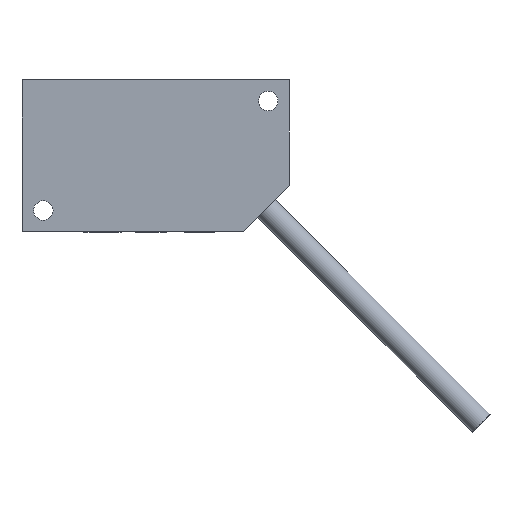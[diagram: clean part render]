
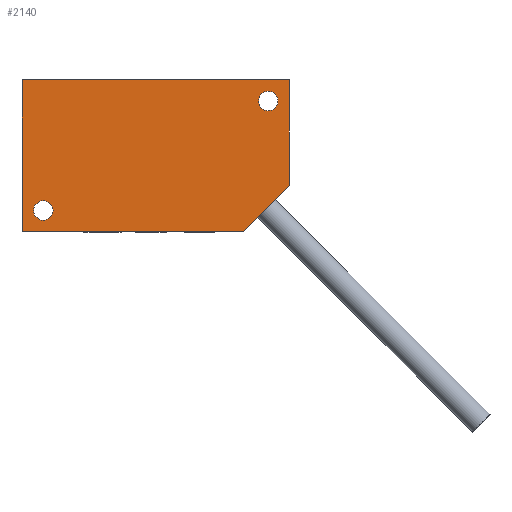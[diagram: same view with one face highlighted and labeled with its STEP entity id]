
A CAD part, left-side view. The second image highlights one B-rep face of the part: STEP entity #2140.
In plain terms, the highlighted planar face has unit normal (-1, 0, 0).
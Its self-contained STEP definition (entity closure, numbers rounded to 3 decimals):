
#591 = LINE ( 'NONE', #1325, #1332 ) ;
#1071 = AXIS2_PLACEMENT_3D ( 'NONE', #1315, #1579, #1572 ) ;
#1088 = CIRCLE ( 'NONE', #1071, 1.6 ) ;
#1138 = CARTESIAN_POINT ( 'NONE',  ( -10., 6.3, -25. ) ) ;
#1163 = CARTESIAN_POINT ( 'NONE',  ( -10., 6.3, 0. ) ) ;
#1165 = CARTESIAN_POINT ( 'NONE',  ( -10., -37.7, -17.354 ) ) ;
#1166 = DIRECTION ( 'NONE',  ( 0., -0.707, 0.707 ) ) ;
#1167 = VECTOR ( 'NONE', #1166, 1000. ) ;
#1184 = CARTESIAN_POINT ( 'NONE',  ( -10., -37.7, -17.354 ) ) ;
#1185 = LINE ( 'NONE', #1184, #1167 ) ;
#1200 = DIRECTION ( 'NONE',  ( 0., -1., 0. ) ) ;
#1201 = VECTOR ( 'NONE', #1200, 1000. ) ;
#1202 = CARTESIAN_POINT ( 'NONE',  ( -10., 6.3, 0. ) ) ;
#1203 = LINE ( 'NONE', #1202, #1201 ) ;
#1286 = CARTESIAN_POINT ( 'NONE',  ( -10., -37.7, 0. ) ) ;
#1315 = CARTESIAN_POINT ( 'NONE',  ( -10., -34.2, -3.5 ) ) ;
#1319 = DIRECTION ( 'NONE',  ( 0., 0., 1. ) ) ;
#1323 = DIRECTION ( 'NONE',  ( 0., 0., -1. ) ) ;
#1324 = VECTOR ( 'NONE', #1323, 1000. ) ;
#1325 = CARTESIAN_POINT ( 'NONE',  ( -10., 6.3, 0. ) ) ;
#1326 = CARTESIAN_POINT ( 'NONE',  ( -10., -37.7, 0. ) ) ;
#1332 = VECTOR ( 'NONE', #1319, 1000. ) ;
#1340 = LINE ( 'NONE', #1326, #1324 ) ;
#1348 = DIRECTION ( 'NONE',  ( 0., 0., -1. ) ) ;
#1349 = DIRECTION ( 'NONE',  ( 1., 0., 0. ) ) ;
#1350 = CARTESIAN_POINT ( 'NONE',  ( -10., 2.8, -21.5 ) ) ;
#1351 = AXIS2_PLACEMENT_3D ( 'NONE', #1350, #1349, #1348 ) ;
#1352 = CIRCLE ( 'NONE', #1351, 1.6 ) ;
#1353 = PLANE ( 'NONE',  #1378 ) ;
#1359 = FACE_OUTER_BOUND ( 'NONE', #2131, .T. ) ;
#1361 = FACE_BOUND ( 'NONE', #2132, .T. ) ;
#1362 = FACE_BOUND ( 'NONE', #2137, .T. ) ;
#1368 = CIRCLE ( 'NONE', #1394, 1.6 ) ;
#1378 = AXIS2_PLACEMENT_3D ( 'NONE', #1406, #1405, #1404 ) ;
#1393 = DIRECTION ( 'NONE',  ( 0., 0., -1. ) ) ;
#1394 = AXIS2_PLACEMENT_3D ( 'NONE', #1398, #1400, #1393 ) ;
#1398 = CARTESIAN_POINT ( 'NONE',  ( -10., -34.2, -3.5 ) ) ;
#1400 = DIRECTION ( 'NONE',  ( 1., 0., 0. ) ) ;
#1404 = DIRECTION ( 'NONE',  ( 0., 0., -1. ) ) ;
#1405 = DIRECTION ( 'NONE',  ( 1., 0., 0. ) ) ;
#1406 = CARTESIAN_POINT ( 'NONE',  ( -10., -37.7, 0. ) ) ;
#1572 = DIRECTION ( 'NONE',  ( 0., 0., -1. ) ) ;
#1579 = DIRECTION ( 'NONE',  ( 1., 0., 0. ) ) ;
#1606 = CARTESIAN_POINT ( 'NONE',  ( -10., 2.8, -21.5 ) ) ;
#1608 = CARTESIAN_POINT ( 'NONE',  ( -10., -34.2, -1.9 ) ) ;
#1660 = DIRECTION ( 'NONE',  ( 0., 0., -1. ) ) ;
#1661 = DIRECTION ( 'NONE',  ( 1., 0., 0. ) ) ;
#1662 = AXIS2_PLACEMENT_3D ( 'NONE', #1606, #1661, #1660 ) ;
#1663 = CIRCLE ( 'NONE', #1662, 1.6 ) ;
#1673 = CARTESIAN_POINT ( 'NONE',  ( -10., 2.8, -23.1 ) ) ;
#1703 = CARTESIAN_POINT ( 'NONE',  ( -10., 2.8, -19.9 ) ) ;
#1746 = CARTESIAN_POINT ( 'NONE',  ( -10., -34.2, -5.1 ) ) ;
#1786 = DIRECTION ( 'NONE',  ( 0., 1., 0. ) ) ;
#1787 = VECTOR ( 'NONE', #1786, 1000. ) ;
#1788 = CARTESIAN_POINT ( 'NONE',  ( -10., 6.3, -25. ) ) ;
#1789 = LINE ( 'NONE', #1788, #1787 ) ;
#1868 = CARTESIAN_POINT ( 'NONE',  ( -10., -30.054, -25. ) ) ;
#2002 = VERTEX_POINT ( 'NONE', #1138 ) ;
#2013 = EDGE_CURVE ( 'NONE', #2442, #2015, #1185, .T. ) ;
#2015 = VERTEX_POINT ( 'NONE', #1165 ) ;
#2026 = VERTEX_POINT ( 'NONE', #1163 ) ;
#2028 = EDGE_CURVE ( 'NONE', #2026, #2055, #1203, .T. ) ;
#2055 = VERTEX_POINT ( 'NONE', #1286 ) ;
#2099 = EDGE_CURVE ( 'NONE', #2055, #2015, #1340, .T. ) ;
#2114 = EDGE_CURVE ( 'NONE', #2002, #2026, #591, .T. ) ;
#2120 = ORIENTED_EDGE ( 'NONE', *, *, #2099, .F. ) ;
#2121 = ORIENTED_EDGE ( 'NONE', *, *, #2114, .F. ) ;
#2122 = ORIENTED_EDGE ( 'NONE', *, *, #2279, .T. ) ;
#2128 = ORIENTED_EDGE ( 'NONE', *, *, #2148, .T. ) ;
#2131 = EDGE_LOOP ( 'NONE', ( #2134, #2138, #2120, #2136, #2121 ) ) ;
#2132 = EDGE_LOOP ( 'NONE', ( #2135, #2133 ) ) ;
#2133 = ORIENTED_EDGE ( 'NONE', *, *, #2294, .T. ) ;
#2134 = ORIENTED_EDGE ( 'NONE', *, *, #2372, .F. ) ;
#2135 = ORIENTED_EDGE ( 'NONE', *, *, #2139, .T. ) ;
#2136 = ORIENTED_EDGE ( 'NONE', *, *, #2028, .F. ) ;
#2137 = EDGE_LOOP ( 'NONE', ( #2128, #2122 ) ) ;
#2138 = ORIENTED_EDGE ( 'NONE', *, *, #2013, .T. ) ;
#2139 = EDGE_CURVE ( 'NONE', #2334, #2349, #1352, .T. ) ;
#2140 = ADVANCED_FACE ( 'NONE', ( #1361, #1362, #1359 ), #1353, .F. ) ;
#2148 = EDGE_CURVE ( 'NONE', #2355, #2290, #1368, .T. ) ;
#2279 = EDGE_CURVE ( 'NONE', #2290, #2355, #1088, .T. ) ;
#2290 = VERTEX_POINT ( 'NONE', #1608 ) ;
#2294 = EDGE_CURVE ( 'NONE', #2349, #2334, #1663, .T. ) ;
#2334 = VERTEX_POINT ( 'NONE', #1673 ) ;
#2349 = VERTEX_POINT ( 'NONE', #1703 ) ;
#2355 = VERTEX_POINT ( 'NONE', #1746 ) ;
#2372 = EDGE_CURVE ( 'NONE', #2442, #2002, #1789, .T. ) ;
#2442 = VERTEX_POINT ( 'NONE', #1868 ) ;
